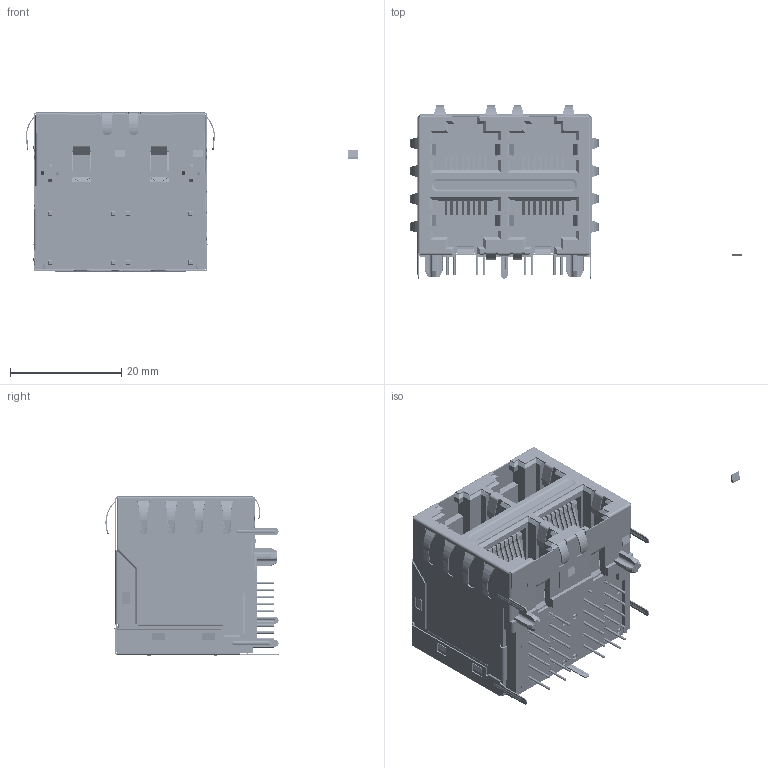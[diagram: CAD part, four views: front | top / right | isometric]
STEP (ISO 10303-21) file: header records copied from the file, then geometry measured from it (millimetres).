
FILE_DESCRIPTION((''),'2;1');
FILE_NAME('PRT0003','2024-03-26T14:42:07',('admin'),(''),'CREO PARAMETRIC BY PTC INC, 2020053','CREO PARAMETRIC BY PTC INC, 2020053','');
FILE_SCHEMA(('CONFIG_CONTROL_DESIGN'));
Products named in the file (1): PRT0003
Bounding box: 59.81 x 31.19 x 28.65 mm (x, y, z)
Volume: 14895.9 mm3; surface area: 25457.4 mm2
Topology: 2 solids, 68 shells, 17108 faces, 47797 edges, 27773 vertices
Faces by surface type: cylinder 6473, torus 5134, plane 4860, sphere 321, bspline 246, cone 48, extrusion 26
Entity records: 611416 total; most frequent: CARTESIAN_POINT 173369, ORIENTED_EDGE 94480, DIRECTION 93867, EDGE_CURVE 47797, AXIS2_PLACEMENT_3D 37186, VERTEX_POINT 27773, CIRCLE 20349, VECTOR 19495
